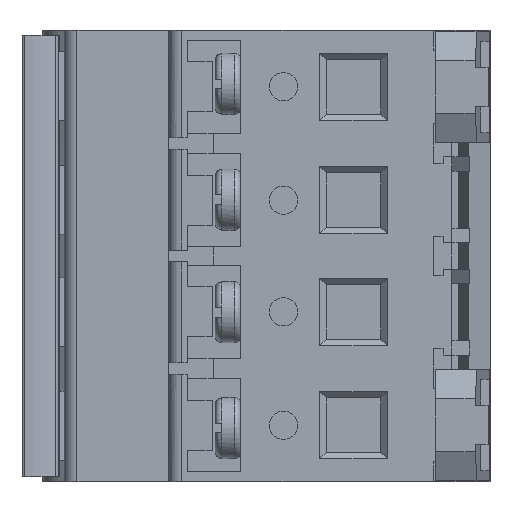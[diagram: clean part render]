
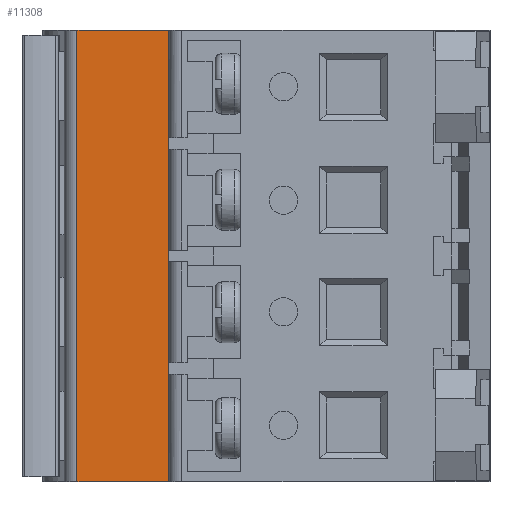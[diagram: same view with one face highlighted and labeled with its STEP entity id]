
A CAD part, front view. The second image highlights one B-rep face of the part: STEP entity #11308.
In plain terms, the highlighted planar face has unit normal (0, -1, 0).
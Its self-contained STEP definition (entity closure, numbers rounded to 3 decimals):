
#644 = DIRECTION ( 'NONE',  ( 1., 0., 0. ) ) ;
#2485 = PLANE ( 'NONE',  #4814 ) ;
#3068 = LINE ( 'NONE', #15220, #18461 ) ;
#3581 = CARTESIAN_POINT ( 'NONE',  ( -14.3, 18., 0. ) ) ;
#3717 = VERTEX_POINT ( 'NONE', #3581 ) ;
#4441 = CARTESIAN_POINT ( 'NONE',  ( 0., 18., 70.3 ) ) ;
#4682 = EDGE_CURVE ( 'NONE', #16129, #8969, #6743, .T. ) ;
#4814 = AXIS2_PLACEMENT_3D ( 'NONE', #4441, #18538, #644 ) ;
#4843 = EDGE_LOOP ( 'NONE', ( #9137, #21445, #11854, #13798 ) ) ;
#5013 = VECTOR ( 'NONE', #10323, 1000. ) ;
#6463 = VECTOR ( 'NONE', #17181, 1000. ) ;
#6743 = LINE ( 'NONE', #13925, #5013 ) ;
#6798 = CARTESIAN_POINT ( 'NONE',  ( -14.3, 18., 70.3 ) ) ;
#8969 = VERTEX_POINT ( 'NONE', #6798 ) ;
#9137 = ORIENTED_EDGE ( 'NONE', *, *, #4682, .T. ) ;
#9384 = VERTEX_POINT ( 'NONE', #20630 ) ;
#9400 = EDGE_CURVE ( 'NONE', #9384, #3717, #3068, .T. ) ;
#10119 = LINE ( 'NONE', #19024, #6463 ) ;
#10323 = DIRECTION ( 'NONE',  ( -1., 0., 0. ) ) ;
#11308 = ADVANCED_FACE ( 'NONE', ( #21995 ), #2485, .T. ) ;
#11345 = CARTESIAN_POINT ( 'NONE',  ( 0.8, 18., 0. ) ) ;
#11854 = ORIENTED_EDGE ( 'NONE', *, *, #9400, .F. ) ;
#11916 = CARTESIAN_POINT ( 'NONE',  ( 0.8, 18., 70.3 ) ) ;
#12855 = EDGE_CURVE ( 'NONE', #16129, #9384, #16673, .T. ) ;
#13798 = ORIENTED_EDGE ( 'NONE', *, *, #12855, .F. ) ;
#13925 = CARTESIAN_POINT ( 'NONE',  ( 0., 18., 70.3 ) ) ;
#15220 = CARTESIAN_POINT ( 'NONE',  ( 0., 18., 0. ) ) ;
#16026 = VECTOR ( 'NONE', #17012, 1000. ) ;
#16129 = VERTEX_POINT ( 'NONE', #11916 ) ;
#16673 = LINE ( 'NONE', #11345, #16026 ) ;
#17012 = DIRECTION ( 'NONE',  ( 0., 0., -1. ) ) ;
#17181 = DIRECTION ( 'NONE',  ( 0., 0., -1. ) ) ;
#18461 = VECTOR ( 'NONE', #22236, 1000. ) ;
#18519 = EDGE_CURVE ( 'NONE', #8969, #3717, #10119, .T. ) ;
#18538 = DIRECTION ( 'NONE',  ( 0., -1., 0. ) ) ;
#19024 = CARTESIAN_POINT ( 'NONE',  ( -14.3, 18., 70.3 ) ) ;
#20630 = CARTESIAN_POINT ( 'NONE',  ( 0.8, 18., 0. ) ) ;
#21445 = ORIENTED_EDGE ( 'NONE', *, *, #18519, .T. ) ;
#21995 = FACE_OUTER_BOUND ( 'NONE', #4843, .T. ) ;
#22236 = DIRECTION ( 'NONE',  ( -1., 0., 0. ) ) ;
